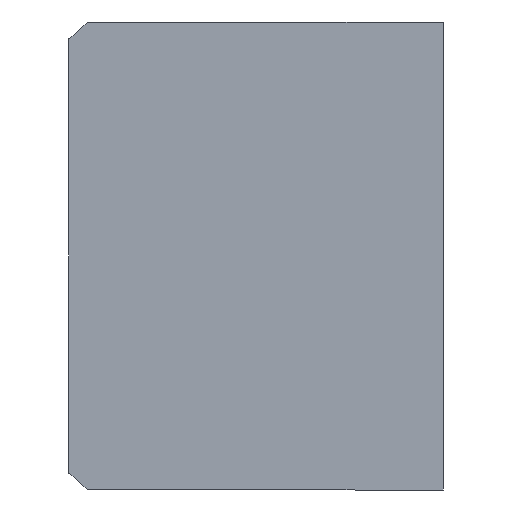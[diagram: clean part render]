
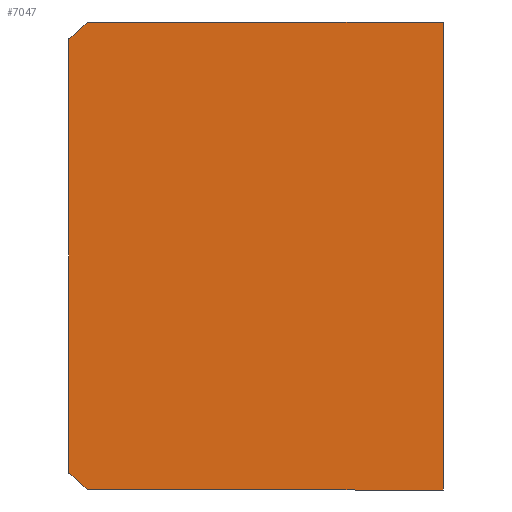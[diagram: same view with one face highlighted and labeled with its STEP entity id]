
A CAD part, front view. The second image highlights one B-rep face of the part: STEP entity #7047.
In plain terms, the highlighted planar face has unit normal (0, -1, 0) as drawn and (0, 0, -1) by its records, which use the part's own axes.
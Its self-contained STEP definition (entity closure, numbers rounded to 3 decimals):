
#47 = VECTOR ( 'NONE', #8694, 1000. ) ;
#57 = LINE ( 'NONE', #7647, #5336 ) ;
#279 = CARTESIAN_POINT ( 'NONE',  ( 0., -40.507, 0. ) ) ;
#714 = VERTEX_POINT ( 'NONE', #6281 ) ;
#1032 = DIRECTION ( 'NONE',  ( 1., 0., 0. ) ) ;
#1386 = VERTEX_POINT ( 'NONE', #7002 ) ;
#1440 = ORIENTED_EDGE ( 'NONE', *, *, #7318, .F. ) ;
#1466 = CARTESIAN_POINT ( 'NONE',  ( -40., -11.507, 0. ) ) ;
#1629 = ORIENTED_EDGE ( 'NONE', *, *, #4588, .F. ) ;
#1692 = DIRECTION ( 'NONE',  ( 1., 0., 0. ) ) ;
#1754 = LINE ( 'NONE', #2319, #7476 ) ;
#1780 = CARTESIAN_POINT ( 'NONE',  ( 0., 0., 0. ) ) ;
#1812 = VERTEX_POINT ( 'NONE', #8955 ) ;
#2071 = CARTESIAN_POINT ( 'NONE',  ( 0., -40.507, 0. ) ) ;
#2319 = CARTESIAN_POINT ( 'NONE',  ( -40., -11.507, 0. ) ) ;
#2446 = AXIS2_PLACEMENT_3D ( 'NONE', #2071, #7364, #2800 ) ;
#2448 = EDGE_CURVE ( 'NONE', #1812, #1386, #57, .T. ) ;
#2633 = EDGE_LOOP ( 'NONE', ( #1629, #3324, #1440, #8439, #6147, #7708 ) ) ;
#2800 = DIRECTION ( 'NONE',  ( 1., 0., 0. ) ) ;
#2814 = CARTESIAN_POINT ( 'NONE',  ( -40., -11.507, 0. ) ) ;
#3234 = PLANE ( 'NONE',  #4404 ) ;
#3324 = ORIENTED_EDGE ( 'NONE', *, *, #5606, .F. ) ;
#3402 = EDGE_CURVE ( 'NONE', #714, #4754, #3994, .T. ) ;
#3715 = VERTEX_POINT ( 'NONE', #2814 ) ;
#3796 = DIRECTION ( 'NONE',  ( 0., -1., 0. ) ) ;
#3994 = LINE ( 'NONE', #5636, #47 ) ;
#4029 = DIRECTION ( 'NONE',  ( 1., 0., 0. ) ) ;
#4404 = AXIS2_PLACEMENT_3D ( 'NONE', #1780, #8597, #4029 ) ;
#4588 = EDGE_CURVE ( 'NONE', #6140, #1812, #8300, .T. ) ;
#4754 = VERTEX_POINT ( 'NONE', #5229 ) ;
#5229 = CARTESIAN_POINT ( 'NONE',  ( 40., -11.507, 0. ) ) ;
#5313 = FACE_OUTER_BOUND ( 'NONE', #2633, .T. ) ;
#5336 = VECTOR ( 'NONE', #1692, 1000. ) ;
#5537 = DIRECTION ( 'NONE',  ( 0., 0., 1. ) ) ;
#5606 = EDGE_CURVE ( 'NONE', #3715, #6140, #1754, .T. ) ;
#5636 = CARTESIAN_POINT ( 'NONE',  ( 40., -11.507, 0. ) ) ;
#6140 = VERTEX_POINT ( 'NONE', #6589 ) ;
#6147 = ORIENTED_EDGE ( 'NONE', *, *, #7023, .F. ) ;
#6281 = CARTESIAN_POINT ( 'NONE',  ( 40., -72.145, 0. ) ) ;
#6589 = CARTESIAN_POINT ( 'NONE',  ( -40., -72.145, 0. ) ) ;
#7002 = CARTESIAN_POINT ( 'NONE',  ( 37.094, -75.507, 0. ) ) ;
#7023 = EDGE_CURVE ( 'NONE', #1386, #714, #7325, .T. ) ;
#7047 = ADVANCED_FACE ( 'NONE', ( #5313 ), #3234, .F. ) ;
#7318 = EDGE_CURVE ( 'NONE', #4754, #3715, #9718, .T. ) ;
#7325 = CIRCLE ( 'NONE', #9712, 51. ) ;
#7364 = DIRECTION ( 'NONE',  ( 0., 0., 1. ) ) ;
#7476 = VECTOR ( 'NONE', #3796, 1000. ) ;
#7512 = DIRECTION ( 'NONE',  ( -1., 0., 0. ) ) ;
#7647 = CARTESIAN_POINT ( 'NONE',  ( -40., -75.507, 0. ) ) ;
#7708 = ORIENTED_EDGE ( 'NONE', *, *, #2448, .F. ) ;
#7921 = VECTOR ( 'NONE', #7512, 1000. ) ;
#8300 = CIRCLE ( 'NONE', #2446, 51. ) ;
#8439 = ORIENTED_EDGE ( 'NONE', *, *, #3402, .F. ) ;
#8597 = DIRECTION ( 'NONE',  ( 0., 0., 1. ) ) ;
#8694 = DIRECTION ( 'NONE',  ( 0., 1., 0. ) ) ;
#8955 = CARTESIAN_POINT ( 'NONE',  ( -37.094, -75.507, 0. ) ) ;
#9712 = AXIS2_PLACEMENT_3D ( 'NONE', #279, #5537, #1032 ) ;
#9718 = LINE ( 'NONE', #1466, #7921 ) ;
